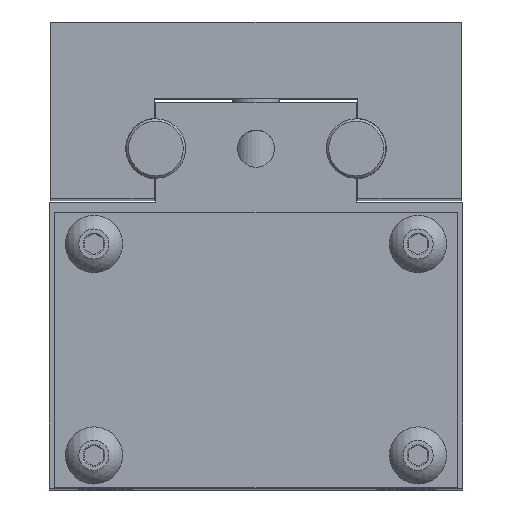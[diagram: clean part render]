
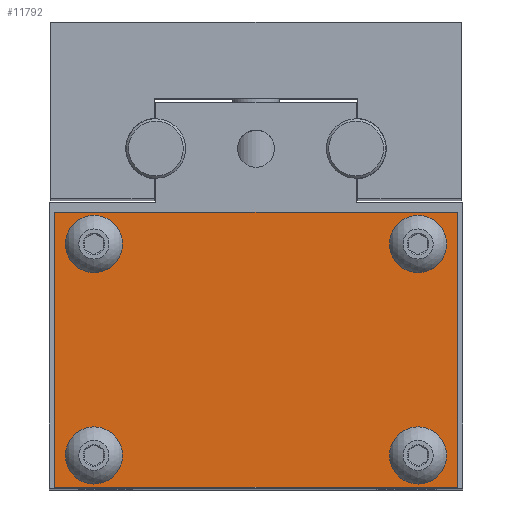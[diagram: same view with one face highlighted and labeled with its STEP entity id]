
A CAD part, top view. The second image highlights one B-rep face of the part: STEP entity #11792.
In plain terms, the highlighted planar face has unit normal (0, 0, 1).
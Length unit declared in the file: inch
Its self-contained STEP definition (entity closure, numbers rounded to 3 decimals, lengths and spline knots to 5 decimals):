
#834=FACE_BOUND('',#2505,.T.);
#835=FACE_BOUND('',#2506,.T.);
#836=FACE_BOUND('',#2507,.T.);
#837=FACE_BOUND('',#2508,.T.);
#976=PLANE('',#13392);
#1699=FACE_OUTER_BOUND('',#2504,.T.);
#2504=EDGE_LOOP('',(#9498,#9499,#9500,#9501));
#2505=EDGE_LOOP('',(#9502,#9503));
#2506=EDGE_LOOP('',(#9504,#9505));
#2507=EDGE_LOOP('',(#9506,#9507));
#2508=EDGE_LOOP('',(#9508,#9509));
#3257=LINE('',#19699,#3915);
#3260=LINE('',#19704,#3918);
#3262=LINE('',#19708,#3920);
#3264=LINE('',#19711,#3922);
#3915=VECTOR('',#15797,0.3937);
#3918=VECTOR('',#15802,0.3937);
#3920=VECTOR('',#15806,0.3937);
#3922=VECTOR('',#15810,0.3937);
#4661=CIRCLE('',#13372,0.0865);
#4662=CIRCLE('',#13373,0.0865);
#4664=CIRCLE('',#13376,0.0865);
#4665=CIRCLE('',#13377,0.0865);
#4667=CIRCLE('',#13380,0.0865);
#4668=CIRCLE('',#13381,0.0865);
#4670=CIRCLE('',#13384,0.0865);
#4671=CIRCLE('',#13385,0.0865);
#5435=VERTEX_POINT('',#19656);
#5436=VERTEX_POINT('',#19657);
#5438=VERTEX_POINT('',#19664);
#5439=VERTEX_POINT('',#19665);
#5441=VERTEX_POINT('',#19672);
#5442=VERTEX_POINT('',#19673);
#5444=VERTEX_POINT('',#19680);
#5445=VERTEX_POINT('',#19681);
#5451=VERTEX_POINT('',#19697);
#5452=VERTEX_POINT('',#19698);
#5453=VERTEX_POINT('',#19703);
#5454=VERTEX_POINT('',#19707);
#6868=EDGE_CURVE('',#5435,#5436,#4661,.T.);
#6869=EDGE_CURVE('',#5436,#5435,#4662,.T.);
#6872=EDGE_CURVE('',#5438,#5439,#4664,.T.);
#6873=EDGE_CURVE('',#5439,#5438,#4665,.T.);
#6876=EDGE_CURVE('',#5441,#5442,#4667,.T.);
#6877=EDGE_CURVE('',#5442,#5441,#4668,.T.);
#6880=EDGE_CURVE('',#5444,#5445,#4670,.T.);
#6881=EDGE_CURVE('',#5445,#5444,#4671,.T.);
#6888=EDGE_CURVE('',#5451,#5452,#3257,.T.);
#6891=EDGE_CURVE('',#5452,#5453,#3260,.T.);
#6893=EDGE_CURVE('',#5453,#5454,#3262,.T.);
#6895=EDGE_CURVE('',#5454,#5451,#3264,.T.);
#9498=ORIENTED_EDGE('',*,*,#6888,.F.);
#9499=ORIENTED_EDGE('',*,*,#6895,.F.);
#9500=ORIENTED_EDGE('',*,*,#6893,.F.);
#9501=ORIENTED_EDGE('',*,*,#6891,.F.);
#9502=ORIENTED_EDGE('',*,*,#6868,.T.);
#9503=ORIENTED_EDGE('',*,*,#6869,.T.);
#9504=ORIENTED_EDGE('',*,*,#6872,.T.);
#9505=ORIENTED_EDGE('',*,*,#6873,.T.);
#9506=ORIENTED_EDGE('',*,*,#6876,.T.);
#9507=ORIENTED_EDGE('',*,*,#6877,.T.);
#9508=ORIENTED_EDGE('',*,*,#6880,.T.);
#9509=ORIENTED_EDGE('',*,*,#6881,.T.);
#11792=ADVANCED_FACE('',(#1699,#834,#835,#836,#837),#976,.T.);
#13372=AXIS2_PLACEMENT_3D('',#19658,#15755,#15756);
#13373=AXIS2_PLACEMENT_3D('',#19659,#15757,#15758);
#13376=AXIS2_PLACEMENT_3D('',#19666,#15764,#15765);
#13377=AXIS2_PLACEMENT_3D('',#19667,#15766,#15767);
#13380=AXIS2_PLACEMENT_3D('',#19674,#15773,#15774);
#13381=AXIS2_PLACEMENT_3D('',#19675,#15775,#15776);
#13384=AXIS2_PLACEMENT_3D('',#19682,#15782,#15783);
#13385=AXIS2_PLACEMENT_3D('',#19683,#15784,#15785);
#13392=AXIS2_PLACEMENT_3D('',#19712,#15811,#15812);
#15755=DIRECTION('center_axis',(0.,0.,-1.));
#15756=DIRECTION('ref_axis',(1.,0.,0.));
#15757=DIRECTION('center_axis',(0.,0.,-1.));
#15758=DIRECTION('ref_axis',(1.,0.,0.));
#15764=DIRECTION('center_axis',(0.,0.,-1.));
#15765=DIRECTION('ref_axis',(1.,0.,0.));
#15766=DIRECTION('center_axis',(0.,0.,-1.));
#15767=DIRECTION('ref_axis',(1.,0.,0.));
#15773=DIRECTION('center_axis',(0.,0.,-1.));
#15774=DIRECTION('ref_axis',(1.,0.,0.));
#15775=DIRECTION('center_axis',(0.,0.,-1.));
#15776=DIRECTION('ref_axis',(1.,0.,0.));
#15782=DIRECTION('center_axis',(0.,0.,-1.));
#15783=DIRECTION('ref_axis',(1.,0.,0.));
#15784=DIRECTION('center_axis',(0.,0.,-1.));
#15785=DIRECTION('ref_axis',(1.,0.,0.));
#15797=DIRECTION('',(0.,-1.,0.));
#15802=DIRECTION('',(-1.,0.,0.));
#15806=DIRECTION('',(0.,1.,0.));
#15810=DIRECTION('',(1.,0.,0.));
#15811=DIRECTION('center_axis',(0.,0.,1.));
#15812=DIRECTION('ref_axis',(1.,0.,0.));
#19656=CARTESIAN_POINT('',(0.9345,-0.8382,2.787));
#19657=CARTESIAN_POINT('',(0.7615,-0.8382,2.787));
#19658=CARTESIAN_POINT('Origin',(0.848,-0.8382,2.787));
#19659=CARTESIAN_POINT('Origin',(0.848,-0.8382,2.787));
#19664=CARTESIAN_POINT('',(-0.7615,0.2678,2.787));
#19665=CARTESIAN_POINT('',(-0.9345,0.2678,2.787));
#19666=CARTESIAN_POINT('Origin',(-0.848,0.2678,2.787));
#19667=CARTESIAN_POINT('Origin',(-0.848,0.2678,2.787));
#19672=CARTESIAN_POINT('',(0.9345,0.2678,2.787));
#19673=CARTESIAN_POINT('',(0.7615,0.2678,2.787));
#19674=CARTESIAN_POINT('Origin',(0.848,0.2678,2.787));
#19675=CARTESIAN_POINT('Origin',(0.848,0.2678,2.787));
#19680=CARTESIAN_POINT('',(-0.7615,-0.8382,2.787));
#19681=CARTESIAN_POINT('',(-0.9345,-0.8382,2.787));
#19682=CARTESIAN_POINT('Origin',(-0.848,-0.8382,2.787));
#19683=CARTESIAN_POINT('Origin',(-0.848,-0.8382,2.787));
#19697=CARTESIAN_POINT('',(1.0525,0.4339,2.787));
#19698=CARTESIAN_POINT('',(1.0525,-1.0043,2.787));
#19699=CARTESIAN_POINT('',(1.0525,0.4339,2.787));
#19703=CARTESIAN_POINT('',(-1.0525,-1.0043,2.787));
#19704=CARTESIAN_POINT('',(1.0525,-1.0043,2.787));
#19707=CARTESIAN_POINT('',(-1.0525,0.4339,2.787));
#19708=CARTESIAN_POINT('',(-1.0525,-1.0043,2.787));
#19711=CARTESIAN_POINT('',(-1.0525,0.4339,2.787));
#19712=CARTESIAN_POINT('Origin',(0.,-0.2852,2.787));
